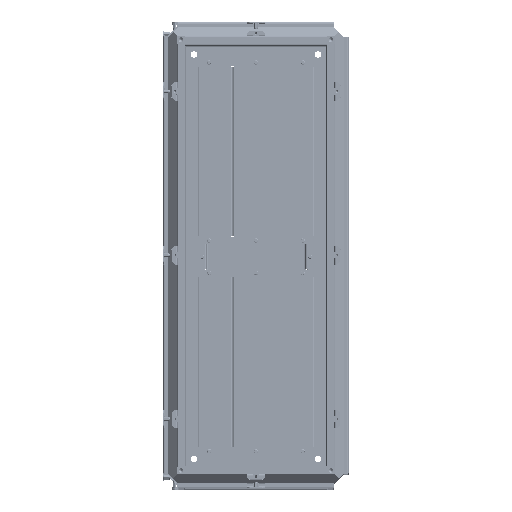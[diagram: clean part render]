
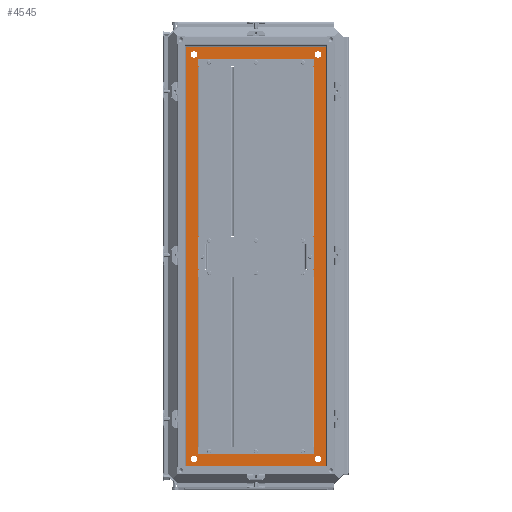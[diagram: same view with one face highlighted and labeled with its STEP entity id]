
A CAD part, top view. The second image highlights one B-rep face of the part: STEP entity #4545.
In plain terms, the highlighted planar face has unit normal (0, 0, 1).
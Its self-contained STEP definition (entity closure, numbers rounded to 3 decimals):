
#4545=ADVANCED_FACE('',(#18087,#18089,#18091,#18093,#18095,#18097),#18099,.F.);
#18087=FACE_BOUND('',#18088,.T.);
#18088=EDGE_LOOP('',(#123459,#123460,#123461,#123462));
#18089=FACE_BOUND('',#18090,.T.);
#18090=EDGE_LOOP('',(#123463,#123464,#123465,#123466));
#18091=FACE_BOUND('',#18092,.T.);
#18092=EDGE_LOOP('',(#123467));
#18093=FACE_BOUND('',#18094,.T.);
#18094=EDGE_LOOP('',(#123468));
#18095=FACE_BOUND('',#18096,.T.);
#18096=EDGE_LOOP('',(#123469));
#18097=FACE_BOUND('',#18098,.T.);
#18098=EDGE_LOOP('',(#123470));
#18099=PLANE('',#18100);
#18100=AXIS2_PLACEMENT_3D('',#18101,#18102,#18103);
#18101=CARTESIAN_POINT('',(0.,0.,-47.5));
#18102=DIRECTION('',(0.,0.,-1.));
#18103=DIRECTION('',(0.,1.,0.));
#123459=ORIENTED_EDGE('',*,*,#187129,.F.);
#123460=ORIENTED_EDGE('',*,*,#187130,.F.);
#123461=ORIENTED_EDGE('',*,*,#187131,.T.);
#123462=ORIENTED_EDGE('',*,*,#187132,.T.);
#123463=ORIENTED_EDGE('',*,*,#187133,.T.);
#123464=ORIENTED_EDGE('',*,*,#187134,.F.);
#123465=ORIENTED_EDGE('',*,*,#187135,.F.);
#123466=ORIENTED_EDGE('',*,*,#187136,.F.);
#123467=ORIENTED_EDGE('',*,*,#187137,.T.);
#123468=ORIENTED_EDGE('',*,*,#187138,.F.);
#123469=ORIENTED_EDGE('',*,*,#187139,.F.);
#123470=ORIENTED_EDGE('',*,*,#187140,.T.);
#187129=EDGE_CURVE('',#219880,#219881,#219882,.F.);
#187130=EDGE_CURVE('',#219883,#219880,#219884,.F.);
#187131=EDGE_CURVE('',#219883,#219885,#219886,.F.);
#187132=EDGE_CURVE('',#219885,#219881,#219887,.F.);
#187133=EDGE_CURVE('',#219888,#219889,#219890,.F.);
#187134=EDGE_CURVE('',#219891,#219889,#219892,.F.);
#187135=EDGE_CURVE('',#219893,#219891,#219894,.F.);
#187136=EDGE_CURVE('',#219888,#219893,#219895,.F.);
#187137=EDGE_CURVE('',#219896,#219896,#219897,.T.);
#187138=EDGE_CURVE('',#219898,#219898,#219899,.T.);
#187139=EDGE_CURVE('',#219900,#219900,#219901,.T.);
#187140=EDGE_CURVE('',#219902,#219902,#219903,.T.);
#219880=VERTEX_POINT('',#276869);
#219881=VERTEX_POINT('',#276870);
#219882=LINE('',#276871,#276872);
#219883=VERTEX_POINT('',#276874);
#219884=LINE('',#276875,#276876);
#219885=VERTEX_POINT('',#276878);
#219886=LINE('',#276879,#276880);
#219887=LINE('',#276882,#276883);
#219888=VERTEX_POINT('',#276885);
#219889=VERTEX_POINT('',#276886);
#219890=LINE('',#276887,#276888);
#219891=VERTEX_POINT('',#276890);
#219892=LINE('',#276891,#276892);
#219893=VERTEX_POINT('',#276894);
#219894=LINE('',#276895,#276896);
#219895=LINE('',#276898,#276899);
#219896=VERTEX_POINT('',#276901);
#219897=CIRCLE('',#276902,7.);
#219898=VERTEX_POINT('',#276906);
#219899=CIRCLE('',#276907,7.);
#219900=VERTEX_POINT('',#276911);
#219901=CIRCLE('',#276912,7.);
#219902=VERTEX_POINT('',#276916);
#219903=CIRCLE('',#276917,7.);
#276869=CARTESIAN_POINT('',(-1.6,1.6,-47.5));
#276870=CARTESIAN_POINT('',(-300.4,1.6,-47.5));
#276871=CARTESIAN_POINT('',(-300.4,1.6,-47.5));
#276872=VECTOR('',#276873,1.);
#276873=DIRECTION('',(1.,0.,0.));
#276874=CARTESIAN_POINT('',(-1.6,900.4,-47.5));
#276875=CARTESIAN_POINT('',(-1.6,1.6,-47.5));
#276876=VECTOR('',#276877,1.);
#276877=DIRECTION('',(0.,1.,0.));
#276878=CARTESIAN_POINT('',(-300.4,900.4,-47.5));
#276879=CARTESIAN_POINT('',(-300.4,900.4,-47.5));
#276880=VECTOR('',#276881,1.);
#276881=DIRECTION('',(1.,0.,0.));
#276882=CARTESIAN_POINT('',(-300.4,1.6,-47.5));
#276883=VECTOR('',#276884,1.);
#276884=DIRECTION('',(0.,1.,0.));
#276885=CARTESIAN_POINT('',(-39.4,39.4,-47.5));
#276886=CARTESIAN_POINT('',(-262.6,39.4,-47.5));
#276887=CARTESIAN_POINT('',(-262.6,39.4,-47.5));
#276888=VECTOR('',#276889,1.);
#276889=DIRECTION('',(1.,0.,0.));
#276890=CARTESIAN_POINT('',(-262.6,862.6,-47.5));
#276891=CARTESIAN_POINT('',(-262.6,39.4,-47.5));
#276892=VECTOR('',#276893,1.);
#276893=DIRECTION('',(0.,1.,0.));
#276894=CARTESIAN_POINT('',(-39.4,862.6,-47.5));
#276895=CARTESIAN_POINT('',(-262.6,862.6,-47.5));
#276896=VECTOR('',#276897,1.);
#276897=DIRECTION('',(1.,0.,0.));
#276898=CARTESIAN_POINT('',(-39.4,862.6,-47.5));
#276899=VECTOR('',#276900,1.);
#276900=DIRECTION('',(0.,-1.,0.));
#276901=CARTESIAN_POINT('',(-18.5,25.5,-47.5));
#276902=AXIS2_PLACEMENT_3D('',#276903,#276904,#276905);
#276903=CARTESIAN_POINT('',(-18.5,18.5,-47.5));
#276904=DIRECTION('',(0.,0.,-1.));
#276905=DIRECTION('',(0.,1.,0.));
#276906=CARTESIAN_POINT('',(-283.5,25.5,-47.5));
#276907=AXIS2_PLACEMENT_3D('',#276908,#276909,#276910);
#276908=CARTESIAN_POINT('',(-283.5,18.5,-47.5));
#276909=DIRECTION('',(0.,0.,1.));
#276910=DIRECTION('',(0.,1.,0.));
#276911=CARTESIAN_POINT('',(-18.5,876.5,-47.5));
#276912=AXIS2_PLACEMENT_3D('',#276913,#276914,#276915);
#276913=CARTESIAN_POINT('',(-18.5,883.5,-47.5));
#276914=DIRECTION('',(0.,0.,1.));
#276915=DIRECTION('',(0.,-1.,0.));
#276916=CARTESIAN_POINT('',(-283.5,876.5,-47.5));
#276917=AXIS2_PLACEMENT_3D('',#276918,#276919,#276920);
#276918=CARTESIAN_POINT('',(-283.5,883.5,-47.5));
#276919=DIRECTION('',(0.,0.,-1.));
#276920=DIRECTION('',(0.,-1.,0.));
